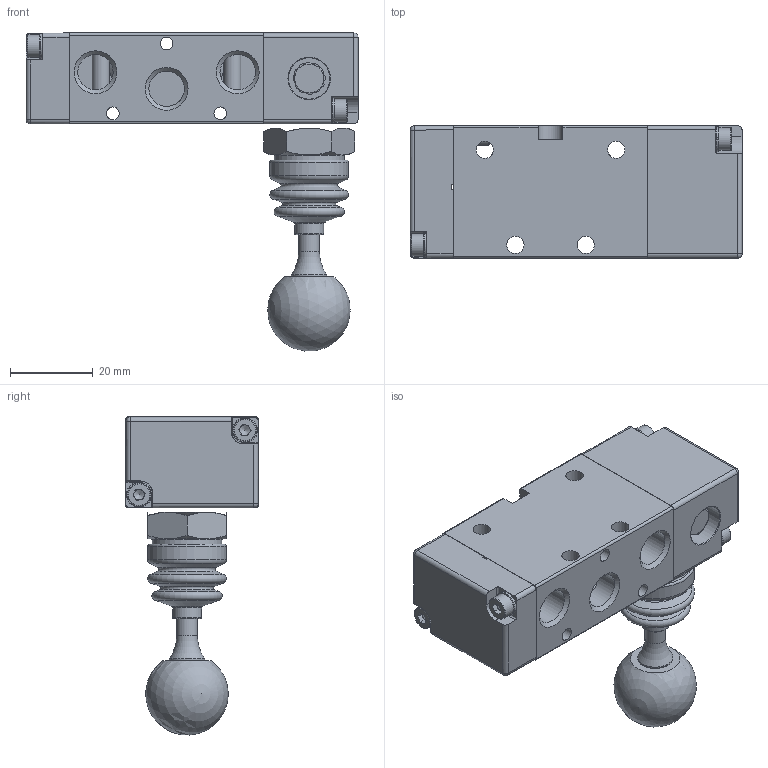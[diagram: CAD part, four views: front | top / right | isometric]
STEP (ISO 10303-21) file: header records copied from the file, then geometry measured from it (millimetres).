
FILE_DESCRIPTION (( 'STEP AP214' ), '1' );
FILE_NAME ('282417.STEP', '2014-04-16T16:13:15', ( 'ST01' ), ( '' ), 'SwSTEP 2.0', 'SolidWorks 2013', '' );
FILE_SCHEMA (( 'AUTOMOTIVE_DESIGN' ));
Length unit declared in the file: millimetre
Products named in the file (1): 282417
Bounding box: 80.3 x 32 x 76.92 mm (x, y, z)
Surface area: 18010.9 mm2 (no closed solid volume)
Topology: 0 solids, 19 shells, 253 faces, 714 edges, 466 vertices
Faces by surface type: plane 109, cylinder 76, cone 39, torus 24, sphere 5
Full cylindrical faces by diameter (mm): 2 x2, 3 x1, 3.1 x3, 4.2 x4, 5 x1, 5.5 x4, 7 x1, 8.5 x1, 8.566 x5, 10 x2, 16.9 x1, 19 x1
Entity records: 11192 total; most frequent: CARTESIAN_POINT 2251, DIRECTION 1288, ORIENTED_EDGE 1086, EDGE_CURVE 640, AXIS2_PLACEMENT_3D 492, VERTEX_POINT 455, EDGE_LOOP 360, LINE 304
